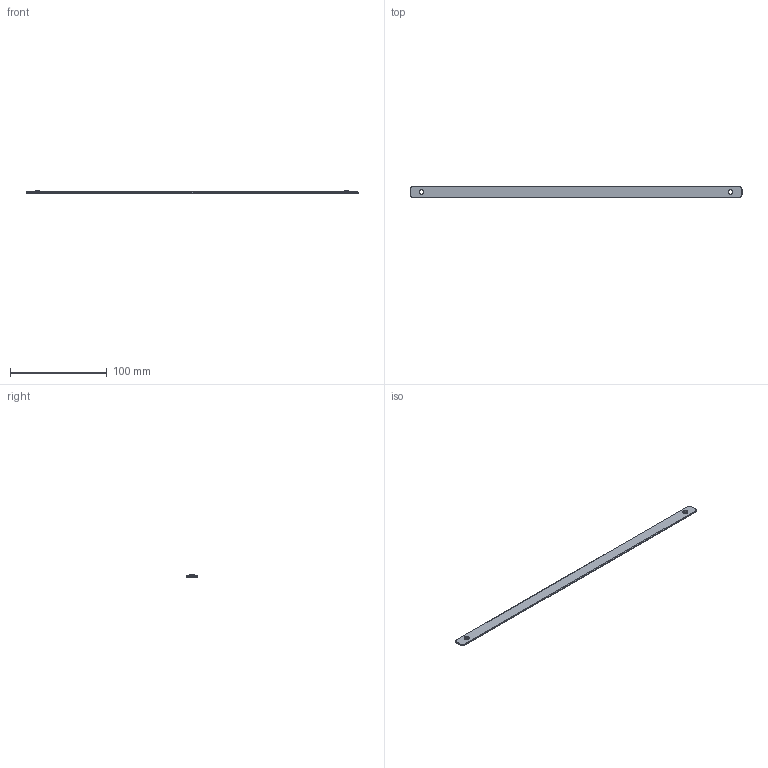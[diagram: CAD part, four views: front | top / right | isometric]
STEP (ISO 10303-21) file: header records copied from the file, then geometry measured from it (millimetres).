
FILE_DESCRIPTION(('Open CASCADE Model'),'2;1');
FILE_NAME('W-BAR-WL320-12','2026-10-19T21:23:53',('Author'),( 'Open CASCADE'),'Open CASCADE STEP processor 8.0','build123d', 'Unknown');
FILE_SCHEMA(('AUTOMOTIVE_DESIGN { 1 0 10303 214 1 1 1 1 }'));
Length unit declared in the file: millimetre
Products named in the file (2): W-BAR-WL320-12; brass_WL320-12__w
Assembly tree (1 placements, depth 2):
  W-BAR-WL320-12
    brass_WL320-12__w
Bounding box: 344 x 12 x 2.49 mm (x, y, z)
Volume: 6095 mm3; surface area: 9106.4 mm2
Topology: 1 solids, 1 shells, 32 faces, 68 edges, 40 vertices
Faces by surface type: plane 12, cylinder 12, cone 4, torus 4
Full cylindrical faces by diameter (mm): 4.3 x2, 5 x2
Entity records: 1768 total; most frequent: CARTESIAN_POINT 358, DIRECTION 264, ORIENTED_EDGE 136, PCURVE 136, DEFINITIONAL_REPRESENTATION 136, LINE 124, VECTOR 124, EDGE_CURVE 68
